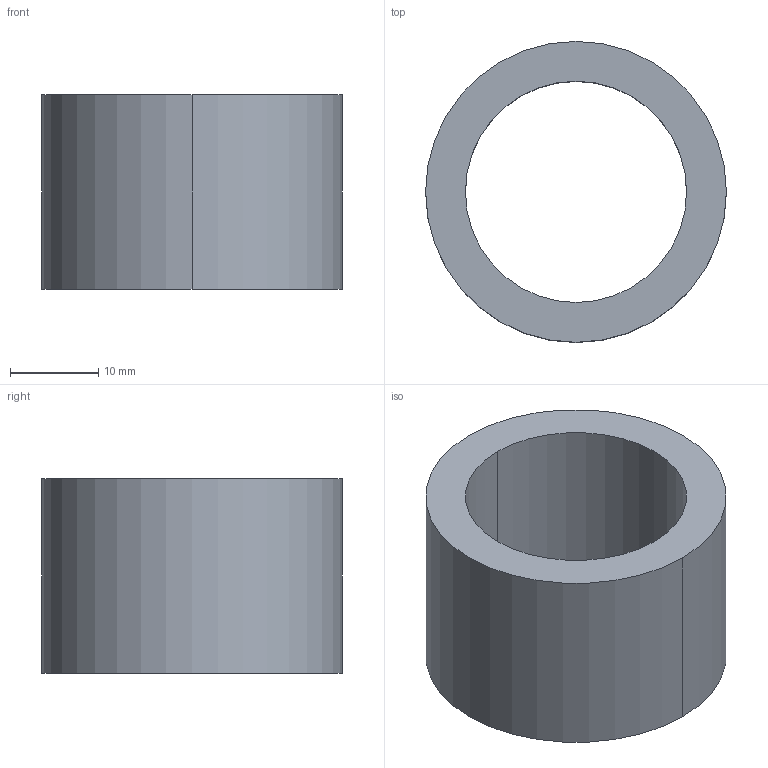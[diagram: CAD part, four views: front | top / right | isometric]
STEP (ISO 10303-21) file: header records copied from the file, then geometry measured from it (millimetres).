
FILE_DESCRIPTION(/* description */ (''),/* implementation_level */ '2;1');
FILE_NAME(/* name */ '3d_tgbz25-22_00334_r00.stp',/* time_stamp */ '2011-01-10T14:09:03+09:00',/* author */ ('MISUMI'),/* organization */ (''),/* preprocessor_version */ 'ST-DEVELOPER v11',/* originating_system */ 'UGS - NX 5.0',/* authorisation */ '');
FILE_SCHEMA (('CONFIG_CONTROL_DESIGN'));
Length unit declared in the file: millimetre
Products named in the file (1): 3d_tgbz25-22_00334_r00
Bounding box: 34 x 34 x 22 mm (x, y, z)
Volume: 9175 mm3; surface area: 4911.9 mm2
Topology: 1 solids, 1 shells, 6 faces, 12 edges, 8 vertices
Faces by surface type: cylinder 4, plane 2
Entity records: 254 total; most frequent: DIRECTION 34, CARTESIAN_POINT 27, ORIENTED_EDGE 24, AXIS2_PLACEMENT_3D 15, EDGE_CURVE 12, EDGE_LOOP 8, CIRCLE 8, VERTEX_POINT 8
